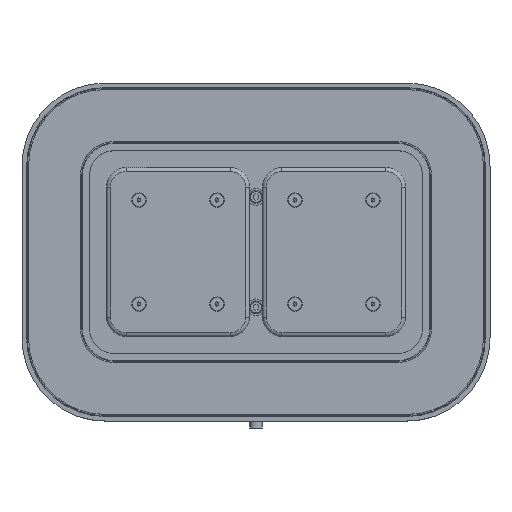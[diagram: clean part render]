
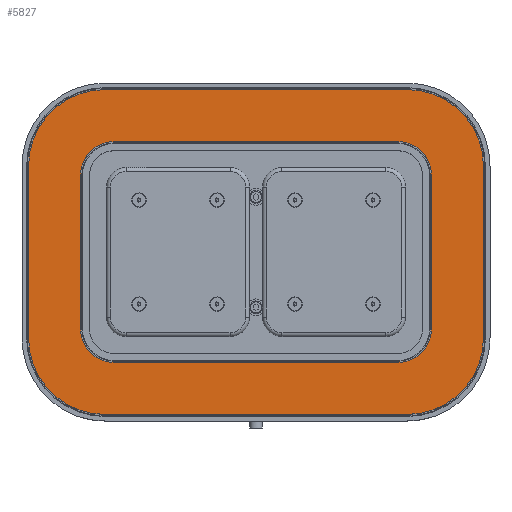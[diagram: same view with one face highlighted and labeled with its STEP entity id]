
A CAD part, top view. The second image highlights one B-rep face of the part: STEP entity #5827.
In plain terms, the highlighted planar face has unit normal (0, 0, 1).
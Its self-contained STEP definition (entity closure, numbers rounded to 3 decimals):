
#5827=ADVANCED_FACE('',(#11434,#11435),#11436,.T.);
#11434=FACE_OUTER_BOUND('',#17727,.T.);
#11435=FACE_BOUND('',#17728,.T.);
#11436=PLANE('',#17729);
#17727=EDGE_LOOP('',(#27785,#27786,#27787,#27788,#27789,#27790,#27791,#27792));
#17728=EDGE_LOOP('',(#27793,#27794,#27795,#27796,#27797,#27798,#27799,#27800));
#17729=AXIS2_PLACEMENT_3D('',#27801,#27802,#27803);
#27785=ORIENTED_EDGE('',*,*,#36845,.T.);
#27786=ORIENTED_EDGE('',*,*,#36840,.T.);
#27787=ORIENTED_EDGE('',*,*,#36846,.T.);
#27788=ORIENTED_EDGE('',*,*,#36830,.T.);
#27789=ORIENTED_EDGE('',*,*,#36847,.T.);
#27790=ORIENTED_EDGE('',*,*,#36835,.T.);
#27791=ORIENTED_EDGE('',*,*,#36848,.T.);
#27792=ORIENTED_EDGE('',*,*,#36849,.T.);
#27793=ORIENTED_EDGE('',*,*,#36850,.T.);
#27794=ORIENTED_EDGE('',*,*,#36851,.T.);
#27795=ORIENTED_EDGE('',*,*,#36852,.T.);
#27796=ORIENTED_EDGE('',*,*,#36853,.T.);
#27797=ORIENTED_EDGE('',*,*,#36854,.T.);
#27798=ORIENTED_EDGE('',*,*,#36855,.T.);
#27799=ORIENTED_EDGE('',*,*,#36856,.T.);
#27800=ORIENTED_EDGE('',*,*,#36857,.T.);
#27801=CARTESIAN_POINT('',(-221.343,-131.459,30.0));
#27802=DIRECTION('',(0.0,0.0,1.0));
#27803=DIRECTION('',(1.0,0.0,0.0));
#36830=EDGE_CURVE('',#43176,#43177,#43178,.T.);
#36835=EDGE_CURVE('',#43185,#43186,#43187,.T.);
#36840=EDGE_CURVE('',#43194,#43195,#43196,.T.);
#36845=EDGE_CURVE('',#43203,#43194,#43204,.T.);
#36846=EDGE_CURVE('',#43195,#43176,#43205,.T.);
#36847=EDGE_CURVE('',#43177,#43185,#43206,.T.);
#36848=EDGE_CURVE('',#43186,#43207,#43208,.T.);
#36849=EDGE_CURVE('',#43207,#43203,#43209,.T.);
#36850=EDGE_CURVE('',#43210,#43211,#43212,.T.);
#36851=EDGE_CURVE('',#43211,#43213,#43214,.F.);
#36852=EDGE_CURVE('',#43213,#43215,#43216,.T.);
#36853=EDGE_CURVE('',#43215,#43217,#43218,.F.);
#36854=EDGE_CURVE('',#43217,#43219,#43220,.T.);
#36855=EDGE_CURVE('',#43219,#43221,#43222,.F.);
#36856=EDGE_CURVE('',#43221,#43223,#43224,.T.);
#36857=EDGE_CURVE('',#43223,#43210,#43225,.F.);
#43176=VERTEX_POINT('',#52295);
#43177=VERTEX_POINT('',#52296);
#43178=CIRCLE('',#52297,59.0);
#43185=VERTEX_POINT('',#52306);
#43186=VERTEX_POINT('',#52307);
#43187=CIRCLE('',#52308,59.0);
#43194=VERTEX_POINT('',#52317);
#43195=VERTEX_POINT('',#52318);
#43196=CIRCLE('',#52319,59.0);
#43203=VERTEX_POINT('',#52328);
#43204=LINE('',#52329,#52330);
#43205=LINE('',#52331,#52332);
#43206=LINE('',#52333,#52334);
#43207=VERTEX_POINT('',#52335);
#43208=LINE('',#52336,#52337);
#43209=CIRCLE('',#52338,59.0);
#43210=VERTEX_POINT('',#52339);
#43211=VERTEX_POINT('',#52340);
#43212=LINE('',#52341,#52342);
#43213=VERTEX_POINT('',#52343);
#43214=CIRCLE('',#52344,26.0);
#43215=VERTEX_POINT('',#52345);
#43216=LINE('',#52346,#52347);
#43217=VERTEX_POINT('',#52348);
#43218=CIRCLE('',#52349,26.0);
#43219=VERTEX_POINT('',#52350);
#43220=LINE('',#52351,#52352);
#43221=VERTEX_POINT('',#52353);
#43222=CIRCLE('',#52354,26.0);
#43223=VERTEX_POINT('',#52355);
#43224=LINE('',#52356,#52357);
#43225=CIRCLE('',#52358,26.0);
#52295=CARTESIAN_POINT('',(128.657,59.541,30.0));
#52296=CARTESIAN_POINT('',(69.657,118.541,30.0));
#52297=AXIS2_PLACEMENT_3D('',#59738,#59739,#59740);
#52306=CARTESIAN_POINT('',(-162.343,118.541,30.0));
#52307=CARTESIAN_POINT('',(-221.343,59.541,30.0));
#52308=AXIS2_PLACEMENT_3D('',#59746,#59747,#59748);
#52317=CARTESIAN_POINT('',(69.657,-131.459,30.0));
#52318=CARTESIAN_POINT('',(128.657,-72.459,30.0));
#52319=AXIS2_PLACEMENT_3D('',#59754,#59755,#59756);
#52328=CARTESIAN_POINT('',(-162.343,-131.459,30.0));
#52329=CARTESIAN_POINT('',(-221.343,-131.459,30.0));
#52330=VECTOR('',#59762,1.0);
#52331=CARTESIAN_POINT('',(128.657,-131.459,30.0));
#52332=VECTOR('',#59763,1.0);
#52333=CARTESIAN_POINT('',(128.657,118.541,30.0));
#52334=VECTOR('',#59764,1.0);
#52335=CARTESIAN_POINT('',(-221.343,-72.459,30.0));
#52336=CARTESIAN_POINT('',(-221.343,118.541,30.0));
#52337=VECTOR('',#59765,1.0);
#52338=AXIS2_PLACEMENT_3D('',#59766,#59767,#59768);
#52339=CARTESIAN_POINT('',(88.657,52.541,30.));
#52340=CARTESIAN_POINT('',(88.657,-65.459,30.));
#52341=CARTESIAN_POINT('',(88.657,78.541,30.));
#52342=VECTOR('',#59769,1.0);
#52343=CARTESIAN_POINT('',(62.657,-91.459,30.));
#52344=AXIS2_PLACEMENT_3D('',#59770,#59771,#59772);
#52345=CARTESIAN_POINT('',(-155.343,-91.459,30.));
#52346=CARTESIAN_POINT('',(88.657,-91.459,30.));
#52347=VECTOR('',#59773,1.0);
#52348=CARTESIAN_POINT('',(-181.343,-65.459,30.));
#52349=AXIS2_PLACEMENT_3D('',#59774,#59775,#59776);
#52350=CARTESIAN_POINT('',(-181.343,52.541,30.));
#52351=CARTESIAN_POINT('',(-181.343,-91.459,30.));
#52352=VECTOR('',#59777,1.0);
#52353=CARTESIAN_POINT('',(-155.343,78.541,30.));
#52354=AXIS2_PLACEMENT_3D('',#59778,#59779,#59780);
#52355=CARTESIAN_POINT('',(62.657,78.541,30.));
#52356=CARTESIAN_POINT('',(-181.343,78.541,30.));
#52357=VECTOR('',#59781,1.0);
#52358=AXIS2_PLACEMENT_3D('',#59782,#59783,#59784);
#59738=CARTESIAN_POINT('',(69.657,59.541,30.0));
#59739=DIRECTION('',(0.0,0.0,1.0));
#59740=DIRECTION('',(1.0,0.0,0.0));
#59746=CARTESIAN_POINT('',(-162.343,59.541,30.0));
#59747=DIRECTION('',(0.0,0.0,1.0));
#59748=DIRECTION('',(1.0,0.0,0.0));
#59754=CARTESIAN_POINT('',(69.657,-72.459,30.0));
#59755=DIRECTION('',(0.0,0.0,1.0));
#59756=DIRECTION('',(1.0,0.0,0.0));
#59762=DIRECTION('',(1.0,0.0,0.0));
#59763=DIRECTION('',(0.0,1.0,0.0));
#59764=DIRECTION('',(-1.0,0.0,0.0));
#59765=DIRECTION('',(0.0,-1.0,0.0));
#59766=CARTESIAN_POINT('',(-162.343,-72.459,30.0));
#59767=DIRECTION('',(0.0,0.0,1.0));
#59768=DIRECTION('',(1.0,0.0,0.0));
#59769=DIRECTION('',(0.0,-1.0,0.0));
#59770=CARTESIAN_POINT('',(62.657,-65.459,30.0));
#59771=DIRECTION('',(0.0,0.0,1.0));
#59772=DIRECTION('',(1.0,0.0,0.0));
#59773=DIRECTION('',(-1.0,0.0,0.0));
#59774=CARTESIAN_POINT('',(-155.343,-65.459,30.0));
#59775=DIRECTION('',(0.0,0.0,1.0));
#59776=DIRECTION('',(1.0,0.0,0.0));
#59777=DIRECTION('',(0.0,1.0,0.0));
#59778=CARTESIAN_POINT('',(-155.343,52.541,30.0));
#59779=DIRECTION('',(0.0,0.0,1.0));
#59780=DIRECTION('',(1.0,0.0,0.0));
#59781=DIRECTION('',(1.0,0.0,0.0));
#59782=CARTESIAN_POINT('',(62.657,52.541,30.0));
#59783=DIRECTION('',(0.0,0.0,1.0));
#59784=DIRECTION('',(1.0,0.0,0.0));
